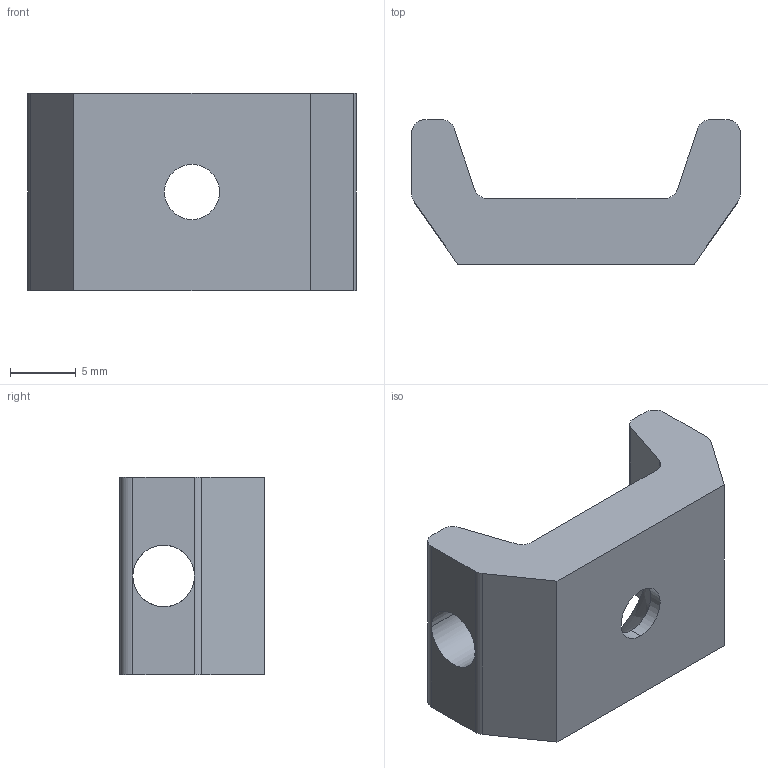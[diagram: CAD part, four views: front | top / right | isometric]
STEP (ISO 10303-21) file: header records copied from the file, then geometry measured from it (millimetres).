
FILE_DESCRIPTION (( 'STEP AP214' ), '1' );
FILE_NAME ('18951 Êëèïñà ïîä õîìóò.STEP', '2017-11-21T08:32:26', ( '' ), ( '' ), 'SwSTEP 2.0', 'SolidWorks 2014', '' );
FILE_SCHEMA (( 'AUTOMOTIVE_DESIGN' ));
Length unit declared in the file: millimetre
Products named in the file (2): 18951 Êëèïñà ïîä õîìóò
Bounding box: 25 x 11 x 15 mm (x, y, z)
Volume: 1942.1 mm3; surface area: 1501.5 mm2
Topology: 1 solids, 1 shells, 30 faces, 86 edges, 54 vertices
Faces by surface type: cylinder 14, plane 14, cone 2
Entity records: 1057 total; most frequent: CARTESIAN_POINT 212, ORIENTED_EDGE 172, DIRECTION 168, EDGE_CURVE 86, AXIS2_PLACEMENT_3D 58, VERTEX_POINT 54, LINE 52, VECTOR 52
